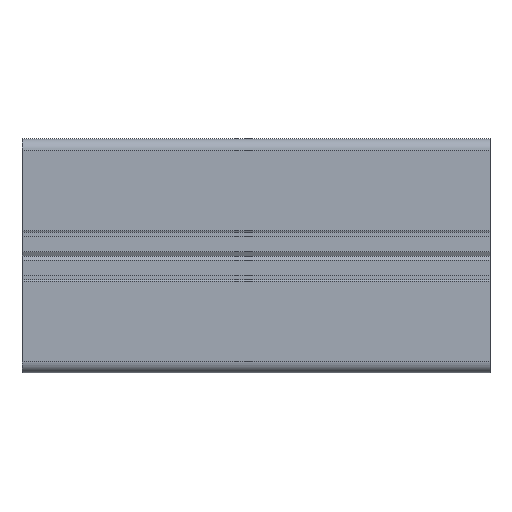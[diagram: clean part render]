
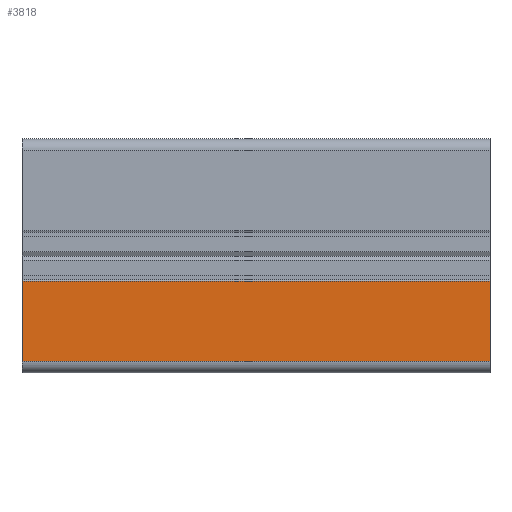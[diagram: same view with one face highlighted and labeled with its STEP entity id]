
A CAD part, front view. The second image highlights one B-rep face of the part: STEP entity #3818.
In plain terms, the highlighted planar face has unit normal (0, -1, 0).
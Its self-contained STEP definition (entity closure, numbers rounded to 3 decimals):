
#152 = LINE ( 'NONE', #6603, #6563 ) ;
#267 = PLANE ( 'NONE',  #2241 ) ;
#929 = CARTESIAN_POINT ( 'NONE',  ( -50., -25., -5.35 ) ) ;
#1084 = CARTESIAN_POINT ( 'NONE',  ( 50., -25., -22.5 ) ) ;
#1196 = DIRECTION ( 'NONE',  ( -1., 0., 0. ) ) ;
#1406 = DIRECTION ( 'NONE',  ( 0., 0., -1. ) ) ;
#1407 = EDGE_LOOP ( 'NONE', ( #2247, #2372, #2910, #2186 ) ) ;
#1698 = VECTOR ( 'NONE', #2869, 1000. ) ;
#1829 = DIRECTION ( 'NONE',  ( 0., 1., 0. ) ) ;
#1897 = EDGE_CURVE ( 'NONE', #4526, #3145, #152, .T. ) ;
#2141 = VERTEX_POINT ( 'NONE', #2648 ) ;
#2186 = ORIENTED_EDGE ( 'NONE', *, *, #1897, .T. ) ;
#2241 = AXIS2_PLACEMENT_3D ( 'NONE', #5018, #1829, #6112 ) ;
#2247 = ORIENTED_EDGE ( 'NONE', *, *, #3848, .T. ) ;
#2372 = ORIENTED_EDGE ( 'NONE', *, *, #5691, .F. ) ;
#2629 = EDGE_CURVE ( 'NONE', #4526, #2141, #3217, .T. ) ;
#2648 = CARTESIAN_POINT ( 'NONE',  ( 50., -25., -22.5 ) ) ;
#2869 = DIRECTION ( 'NONE',  ( 0., 0., -1. ) ) ;
#2910 = ORIENTED_EDGE ( 'NONE', *, *, #2629, .F. ) ;
#3003 = CARTESIAN_POINT ( 'NONE',  ( 50., -25., -5.35 ) ) ;
#3145 = VERTEX_POINT ( 'NONE', #929 ) ;
#3217 = LINE ( 'NONE', #6610, #1698 ) ;
#3818 = ADVANCED_FACE ( 'NONE', ( #4709 ), #267, .F. ) ;
#3848 = EDGE_CURVE ( 'NONE', #3145, #6531, #4623, .T. ) ;
#4487 = CARTESIAN_POINT ( 'NONE',  ( -50., -25., -5.35 ) ) ;
#4526 = VERTEX_POINT ( 'NONE', #3003 ) ;
#4623 = LINE ( 'NONE', #4487, #5137 ) ;
#4709 = FACE_OUTER_BOUND ( 'NONE', #1407, .T. ) ;
#4807 = DIRECTION ( 'NONE',  ( -1., 0., 0. ) ) ;
#5014 = LINE ( 'NONE', #1084, #5702 ) ;
#5018 = CARTESIAN_POINT ( 'NONE',  ( 50., -25., -5.35 ) ) ;
#5057 = CARTESIAN_POINT ( 'NONE',  ( -50., -25., -22.5 ) ) ;
#5137 = VECTOR ( 'NONE', #1406, 1000. ) ;
#5691 = EDGE_CURVE ( 'NONE', #2141, #6531, #5014, .T. ) ;
#5702 = VECTOR ( 'NONE', #4807, 1000. ) ;
#6112 = DIRECTION ( 'NONE',  ( 0., 0., 1. ) ) ;
#6531 = VERTEX_POINT ( 'NONE', #5057 ) ;
#6563 = VECTOR ( 'NONE', #1196, 1000. ) ;
#6603 = CARTESIAN_POINT ( 'NONE',  ( 50., -25., -5.35 ) ) ;
#6610 = CARTESIAN_POINT ( 'NONE',  ( 50., -25., -5.35 ) ) ;
